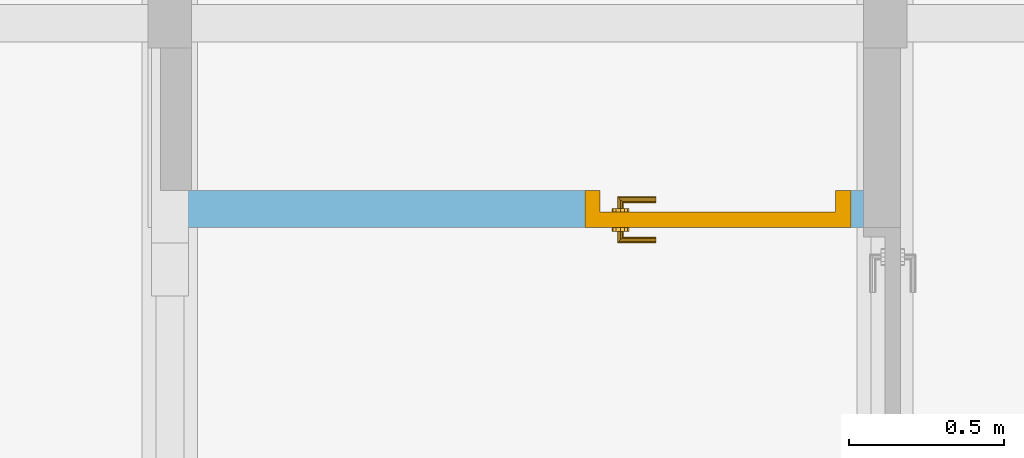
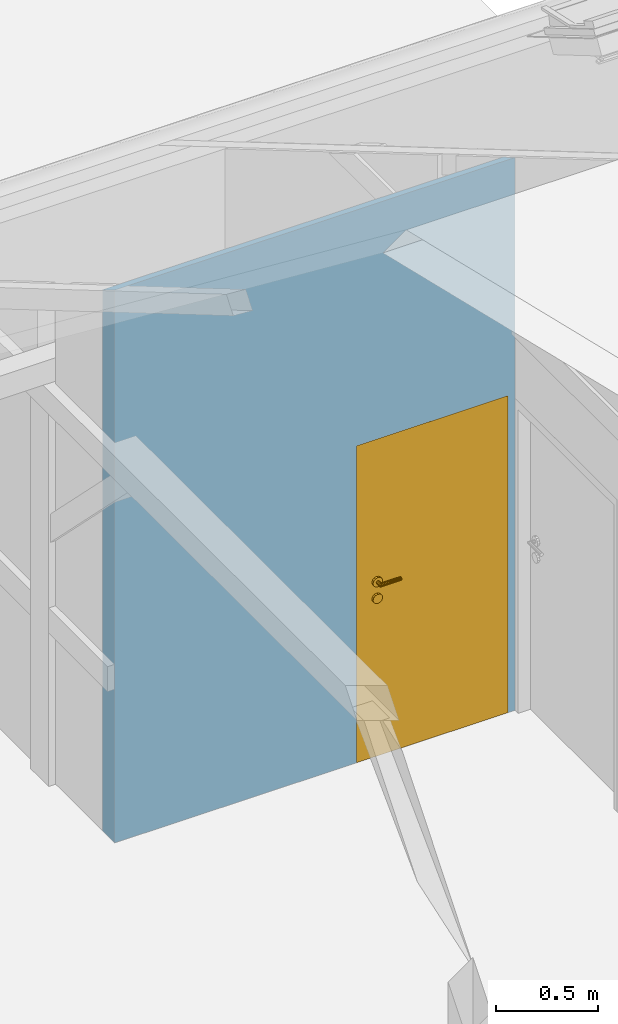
"""IFC4 building model written with IfcOpenShell, lengths in metres."""

from ifc_helpers import new_model, entity, si_unit, converted_unit, derived_unit, frame, frame_2d, origin, origin_with_axes, place, context, subcontext, project, spatial, polyline, rectangle, outline, extrude, clip, halfspace, faceted_brep, source, transform, mapped, material, layer, layer_set, layer_usage, type_object, element, fill, save


model = new_model("IFC4")

# Units and contexts
model_context = context("Model", 3, precision=1e-05, world=origin())
body_context = subcontext(model_context, "Body", "Model", "MODEL_VIEW")
ifc_project = project(units=[si_unit("LENGTHUNIT", "METRE"), si_unit("AREAUNIT", "SQUARE_METRE"), si_unit("VOLUMEUNIT", "CUBIC_METRE"), si_unit("MASSUNIT", "GRAM", prefix="KILO"), converted_unit("PLANEANGLEUNIT", "DEGREE", entity("IfcPlaneAngleMeasure", 0.0174532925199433), si_unit("PLANEANGLEUNIT", "RADIAN"), dimensions=[0, 0, 0, 0, 0, 0, 0]), derived_unit("THERMALTRANSMITTANCEUNIT", [(si_unit("POWERUNIT", "WATT"), 1), (si_unit("THERMODYNAMICTEMPERATUREUNIT", "KELVIN"), -1), (si_unit("LENGTHUNIT", "METRE"), -2)]), derived_unit("VOLUMETRICFLOWRATEUNIT", [(si_unit("LENGTHUNIT", "METRE"), 3), (converted_unit("TIMEUNIT", "hour", entity("IfcTimeMeasure", 3600.0), si_unit("TIMEUNIT", "SECOND"), dimensions=[0, 0, 1, 0, 0, 0, 0]), -1), (si_unit("LENGTHUNIT", "METRE"), -1)])], contexts=[model_context])

# Building, storeys
building_placement = place(None, origin())
building = spatial("IfcBuilding", under=ifc_project, at=building_placement, Name="Bestandsgebäude A - Sporthalle / Wohnhaus (TB 100-499)   ANPASSEN !!!", CompositionType="ELEMENT")
storey_1_placement = place(building_placement, frame((0.0, 0.0, 7.71)))
storey_1 = spatial("IfcBuildingStorey", under=building, at=storey_1_placement, Name="Geb. A Dachgeschoss (TB 450-499)", CompositionType="ELEMENT", Elevation=7.71)
storey_2_placement = place(storey_1_placement, frame((0.0, 0.0, 7.71)))
storey_2 = spatial("IfcBuildingStorey", under=storey_1, at=storey_2_placement, Name="Architektur (TB 450-459)", CompositionType="PARTIAL")

# Wall, opening, door
ifc_material = material(Name="masonry")
ifc_layer = layer(ifc_material, 0.12)
ifc_layer_set = layer_set([ifc_layer])
ifc_layer_usage = layer_usage(ifc_layer_set, "AXIS2", "POSITIVE", 0.0)
wall_placement = place(storey_2_placement, frame((-5.31999999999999, 6.03, -7.81), z_axis=(0.0, 0.0, 1.0), x_axis=(1.0, 1.60263383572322e-15, 0.0)))
wall = element("IfcWall", 1, at=wall_placement, inside=storey_2, material=ifc_layer_usage, Name="masonry load-bearing", PredefinedType="USERDEFINED", context=body_context, shape_type="Clipping", body=[
    clip(extrude(rectangle(XDim=2.27, YDim=0.12, at=frame_2d((1.135, 0.06), x_axis=(1.0, 0.0))), origin_with_axes(), (0.0, 0.0, 1.0), 3.31365393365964), halfspace(frame((1.135, 0.06, 3.27836763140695), z_axis=(-6.91139697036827e-16, -0.506936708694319, -0.861983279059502), x_axis=(1.0, 0.0, -8.01316917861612e-16)), True)),
])
opening_placement = place(wall_placement, frame((2.22999999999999, 0.12, 0.0), z_axis=(0.0, -1.0, 0.0), x_axis=(0.0, 0.0, 1.0)))
opening = element("IfcOpeningElement", 2, at=opening_placement, cuts=wall, Name="Door opening", PredefinedType="OPENING", context=body_context, shape_type="SweptSolid", body=[
    extrude(outline(polyline([(1.9, 0.86), (1.9, 0.0), (0.0, 0.0), (0.0, 0.86), (1.9, 0.86)])), origin_with_axes(), (0.0, 0.0, 1.0), 0.12),
])
door_type = type_object("IfcDoorType", Name="door", OperationType="SINGLE_SWING_LEFT", ParameterTakesPrecedence=False, PredefinedType="DOOR")
shared_shape = source(origin_with_axes(), body_context, "Body", "Brep", [
    faceted_brep([(0.0, 0.120000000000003, 1.9), (0.0, 0.120000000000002, 0.0), (0.05, 0.120000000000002, 0.0), (0.05, 0.120000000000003, 1.9), (0.0, 0.0, 0.0), (0.0, 0.0, 1.9), (0.0499999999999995, 0.0, 1.9), (0.0499999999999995, 0.0, 0.0)], [[[0, 1, 2, 3]], [[4, 5, 6, 7]], [[1, 0, 5, 4]], [[2, 1, 4, 7]], [[3, 2, 7, 6]], [[0, 3, 6, 5]]], orient=[[False], [False], [False], [False], [False], [False]]),
    faceted_brep([(0.81, 0.12, 1.9), (0.81, 0.12, 0.0), (0.860000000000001, 0.12, 0.0), (0.860000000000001, 0.12, 1.9), (0.81, 0.0, 0.0), (0.81, 0.0, 1.9), (0.86, 0.0, 1.9), (0.86, 0.0, 0.0)], [[[0, 1, 2, 3]], [[4, 5, 6, 7]], [[1, 0, 5, 4]], [[2, 1, 4, 7]], [[3, 2, 7, 6]], [[0, 3, 6, 5]]], orient=[[False], [False], [False], [False], [False], [False]]),
    faceted_brep([(0.05, 0.120000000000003, 1.9), (0.05, 0.120000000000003, 1.85), (0.81, 0.12, 1.85), (0.81, 0.12, 1.9), (0.0499999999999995, 0.0, 1.85), (0.0499999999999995, 0.0, 1.9), (0.81, 0.0, 1.9), (0.81, 0.0, 1.85)], [[[0, 1, 2, 3]], [[4, 5, 6, 7]], [[1, 0, 5, 4]], [[2, 1, 4, 7]], [[3, 2, 7, 6]], [[0, 3, 6, 5]]], orient=[[False], [False], [False], [False], [False], [False]]),
    faceted_brep([(0.05, 0.120000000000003, 1.85), (0.05, 0.120000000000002, 0.0), (0.81, 0.12, 0.0), (0.81, 0.12, 1.85), (0.05, 0.0700000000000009, 0.0), (0.05, 0.0700000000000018, 1.85), (0.81, 0.0699999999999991, 1.85), (0.81, 0.0699999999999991, 0.0)], [[[0, 1, 2, 3]], [[4, 5, 6, 7]], [[1, 0, 5, 4]], [[2, 1, 4, 7]], [[3, 2, 7, 6]], [[0, 3, 6, 5]]], orient=[[False], [False], [False], [False], [False], [False]]),
    faceted_brep([(0.768815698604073, 0.0699999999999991, 0.93625), (0.772500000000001, 0.0699999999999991, 0.95), (0.768815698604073, 0.0699999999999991, 0.96375), (0.75875, 0.0699999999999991, 0.973815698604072), (0.745, 0.0699999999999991, 0.9775), (0.731250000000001, 0.0699999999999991, 0.973815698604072), (0.721184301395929, 0.0699999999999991, 0.96375), (0.7175, 0.0699999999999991, 0.95), (0.721184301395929, 0.0699999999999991, 0.93625), (0.731250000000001, 0.0699999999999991, 0.926184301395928), (0.745, 0.0699999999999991, 0.9225), (0.75875, 0.0699999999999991, 0.926184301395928), (0.772500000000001, 0.0574999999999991, 0.95), (0.768815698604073, 0.0574999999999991, 0.93625), (0.75875, 0.0574999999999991, 0.926184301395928), (0.745, 0.0574999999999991, 0.9225), (0.731250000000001, 0.0574999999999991, 0.926184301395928), (0.721184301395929, 0.0574999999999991, 0.93625), (0.7175, 0.0574999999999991, 0.95), (0.721184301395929, 0.0574999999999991, 0.96375), (0.731250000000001, 0.0574999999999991, 0.973815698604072), (0.745, 0.0574999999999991, 0.9775), (0.75875, 0.0574999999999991, 0.973815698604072), (0.768815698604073, 0.0574999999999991, 0.96375)], [[[0, 1, 2, 3, 4, 5, 6, 7, 8, 9, 10, 11]], [[12, 13, 14, 15, 16, 17, 18, 19, 20, 21, 22, 23]], [[1, 0, 13, 12]], [[2, 1, 12, 23]], [[3, 2, 23, 22]], [[4, 3, 22, 21]], [[5, 4, 21, 20]], [[6, 5, 20, 19]], [[7, 6, 19, 18]], [[8, 7, 18, 17]], [[9, 8, 17, 16]], [[10, 9, 16, 15]], [[11, 10, 15, 14]], [[0, 11, 14, 13]]], orient=[[False], [False], [False], [False], [False], [False], [False], [False], [False], [False], [False], [False], [False], [False]]),
    faceted_brep([(0.768815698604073, 0.0699999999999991, 1.03625), (0.772500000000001, 0.0699999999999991, 1.05), (0.768815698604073, 0.0699999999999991, 1.06375), (0.75875, 0.0699999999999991, 1.07381569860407), (0.745, 0.0699999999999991, 1.0775), (0.731250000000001, 0.0699999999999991, 1.07381569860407), (0.721184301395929, 0.0699999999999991, 1.06375), (0.7175, 0.0699999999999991, 1.05), (0.721184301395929, 0.0699999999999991, 1.03625), (0.731250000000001, 0.0699999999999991, 1.02618430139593), (0.745, 0.0699999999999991, 1.0225), (0.75875, 0.0699999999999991, 1.02618430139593), (0.772500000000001, 0.0574999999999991, 1.05), (0.768815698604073, 0.0574999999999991, 1.03625), (0.75875, 0.0574999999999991, 1.02618430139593), (0.745, 0.0574999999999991, 1.0225), (0.731250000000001, 0.0574999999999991, 1.02618430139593), (0.721184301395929, 0.0574999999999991, 1.03625), (0.7175, 0.0574999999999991, 1.05), (0.721184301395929, 0.0574999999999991, 1.06375), (0.731250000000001, 0.0574999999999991, 1.07381569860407), (0.745, 0.0574999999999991, 1.0775), (0.75875, 0.0574999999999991, 1.07381569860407), (0.768815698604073, 0.0574999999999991, 1.06375)], [[[0, 1, 2, 3, 4, 5, 6, 7, 8, 9, 10, 11]], [[12, 13, 14, 15, 16, 17, 18, 19, 20, 21, 22, 23]], [[1, 0, 13, 12]], [[2, 1, 12, 23]], [[3, 2, 23, 22]], [[4, 3, 22, 21]], [[5, 4, 21, 20]], [[6, 5, 20, 19]], [[7, 6, 19, 18]], [[8, 7, 18, 17]], [[9, 8, 17, 16]], [[10, 9, 16, 15]], [[11, 10, 15, 14]], [[0, 11, 14, 13]]], orient=[[False], [False], [False], [False], [False], [False], [False], [False], [False], [False], [False], [False], [False], [False]]),
    faceted_brep([(0.745, 0.0699999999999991, 1.06), (0.74, 0.0699999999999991, 1.05866025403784), (0.736339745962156, 0.0699999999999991, 1.055), (0.735, 0.0699999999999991, 1.05), (0.736339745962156, 0.0699999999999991, 1.045), (0.74, 0.0699999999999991, 1.04133974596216), (0.745, 0.0699999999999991, 1.04), (0.75, 0.0699999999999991, 1.04133974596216), (0.753660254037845, 0.0699999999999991, 1.045), (0.755, 0.0699999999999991, 1.05), (0.753660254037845, 0.0699999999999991, 1.055), (0.75, 0.0699999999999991, 1.05866025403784), (0.75, 0.0249999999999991, 1.05866025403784), (0.745, 0.0299999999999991, 1.06), (0.753660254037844, 0.0213397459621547, 1.055), (0.755, 0.0199999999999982, 1.05), (0.753660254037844, 0.0213397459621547, 1.045), (0.75, 0.0249999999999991, 1.04133974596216), (0.745, 0.0299999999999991, 1.04), (0.74, 0.0349999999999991, 1.04133974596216), (0.736339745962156, 0.0386602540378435, 1.045), (0.735, 0.0399999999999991, 1.05), (0.736339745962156, 0.0386602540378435, 1.055), (0.74, 0.0349999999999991, 1.05866025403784), (0.63, 0.0299999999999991, 1.06), (0.63, 0.0249999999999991, 1.05866025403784), (0.63, 0.0213397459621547, 1.055), (0.63, 0.0199999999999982, 1.05), (0.63, 0.0213397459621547, 1.045), (0.63, 0.0249999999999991, 1.04133974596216), (0.63, 0.0299999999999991, 1.04), (0.63, 0.0349999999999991, 1.04133974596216), (0.63, 0.0386602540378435, 1.045), (0.63, 0.0399999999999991, 1.05), (0.63, 0.0386602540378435, 1.055), (0.63, 0.0349999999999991, 1.05866025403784)], [[[0, 1, 2, 3, 4, 5, 6, 7, 8, 9, 10, 11]], [[0, 11, 12, 13]], [[11, 10, 14, 12]], [[10, 9, 15, 14]], [[9, 8, 16, 15]], [[8, 7, 17, 16]], [[7, 6, 18, 17]], [[6, 5, 19, 18]], [[5, 4, 20, 19]], [[4, 3, 21, 20]], [[3, 2, 22, 21]], [[2, 1, 23, 22]], [[1, 0, 13, 23]], [[24, 25, 26, 27, 28, 29, 30, 31, 32, 33, 34, 35]], [[13, 12, 25, 24]], [[12, 14, 26, 25]], [[14, 15, 27, 26]], [[15, 16, 28, 27]], [[16, 17, 29, 28]], [[17, 18, 30, 29]], [[18, 19, 31, 30]], [[19, 20, 32, 31]], [[20, 21, 33, 32]], [[21, 22, 34, 33]], [[22, 23, 35, 34]], [[23, 13, 24, 35]]], orient=[[False], [False], [False], [False], [False], [False], [False], [False], [False], [False], [False], [False], [False], [False], [False], [False], [False], [False], [False], [False], [False], [False], [False], [False], [False], [False]]),
    faceted_brep([(0.768815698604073, 0.12, 0.93625), (0.75875, 0.12, 0.926184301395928), (0.745, 0.12, 0.9225), (0.731250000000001, 0.12, 0.926184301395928), (0.721184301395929, 0.12, 0.93625), (0.7175, 0.12, 0.95), (0.721184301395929, 0.12, 0.96375), (0.731250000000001, 0.12, 0.973815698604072), (0.745, 0.12, 0.9775), (0.75875, 0.12, 0.973815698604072), (0.768815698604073, 0.12, 0.96375), (0.772500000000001, 0.12, 0.95), (0.772500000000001, 0.132500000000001, 0.95), (0.768815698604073, 0.132500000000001, 0.96375), (0.75875, 0.132500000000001, 0.973815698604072), (0.745, 0.132500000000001, 0.9775), (0.731250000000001, 0.132500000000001, 0.973815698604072), (0.721184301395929, 0.132500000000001, 0.96375), (0.7175, 0.132500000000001, 0.95), (0.721184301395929, 0.132500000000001, 0.93625), (0.731250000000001, 0.132500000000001, 0.926184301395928), (0.745, 0.132500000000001, 0.9225), (0.75875, 0.132500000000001, 0.926184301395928), (0.768815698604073, 0.132500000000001, 0.93625)], [[[0, 1, 2, 3, 4, 5, 6, 7, 8, 9, 10, 11]], [[12, 13, 14, 15, 16, 17, 18, 19, 20, 21, 22, 23]], [[11, 12, 23, 0]], [[10, 13, 12, 11]], [[9, 14, 13, 10]], [[8, 15, 14, 9]], [[7, 16, 15, 8]], [[6, 17, 16, 7]], [[5, 18, 17, 6]], [[4, 19, 18, 5]], [[3, 20, 19, 4]], [[2, 21, 20, 3]], [[1, 22, 21, 2]], [[0, 23, 22, 1]]], orient=[[False], [False], [False], [False], [False], [False], [False], [False], [False], [False], [False], [False], [False], [False]]),
    faceted_brep([(0.768815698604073, 0.12, 1.03625), (0.75875, 0.12, 1.02618430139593), (0.745, 0.12, 1.0225), (0.731250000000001, 0.12, 1.02618430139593), (0.721184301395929, 0.12, 1.03625), (0.7175, 0.12, 1.05), (0.721184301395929, 0.12, 1.06375), (0.731250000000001, 0.12, 1.07381569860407), (0.745, 0.12, 1.0775), (0.75875, 0.12, 1.07381569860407), (0.768815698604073, 0.12, 1.06375), (0.772500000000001, 0.12, 1.05), (0.772500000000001, 0.132500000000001, 1.05), (0.768815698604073, 0.132500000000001, 1.06375), (0.75875, 0.132500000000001, 1.07381569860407), (0.745, 0.132500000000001, 1.0775), (0.731250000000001, 0.132500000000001, 1.07381569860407), (0.721184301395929, 0.132500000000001, 1.06375), (0.7175, 0.132500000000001, 1.05), (0.721184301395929, 0.132500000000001, 1.03625), (0.731250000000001, 0.132500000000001, 1.02618430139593), (0.745, 0.132500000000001, 1.0225), (0.75875, 0.132500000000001, 1.02618430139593), (0.768815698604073, 0.132500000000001, 1.03625)], [[[0, 1, 2, 3, 4, 5, 6, 7, 8, 9, 10, 11]], [[12, 13, 14, 15, 16, 17, 18, 19, 20, 21, 22, 23]], [[11, 12, 23, 0]], [[10, 13, 12, 11]], [[9, 14, 13, 10]], [[8, 15, 14, 9]], [[7, 16, 15, 8]], [[6, 17, 16, 7]], [[5, 18, 17, 6]], [[4, 19, 18, 5]], [[3, 20, 19, 4]], [[2, 21, 20, 3]], [[1, 22, 21, 2]], [[0, 23, 22, 1]]], orient=[[False], [False], [False], [False], [False], [False], [False], [False], [False], [False], [False], [False], [False], [False]]),
    faceted_brep([(0.745, 0.12, 1.06), (0.75, 0.12, 1.05866025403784), (0.753660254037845, 0.12, 1.055), (0.755, 0.12, 1.05), (0.753660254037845, 0.12, 1.045), (0.75, 0.12, 1.04133974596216), (0.745, 0.12, 1.04), (0.74, 0.12, 1.04133974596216), (0.736339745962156, 0.12, 1.045), (0.735, 0.12, 1.05), (0.736339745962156, 0.12, 1.055), (0.74, 0.12, 1.05866025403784), (0.745, 0.160000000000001, 1.06), (0.75, 0.165000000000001, 1.05866025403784), (0.753660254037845, 0.168660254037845, 1.055), (0.755, 0.170000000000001, 1.05), (0.753660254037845, 0.168660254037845, 1.045), (0.75, 0.165000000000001, 1.04133974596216), (0.745, 0.160000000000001, 1.04), (0.74, 0.155000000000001, 1.04133974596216), (0.736339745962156, 0.151339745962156, 1.045), (0.735, 0.150000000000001, 1.05), (0.736339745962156, 0.151339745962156, 1.055), (0.74, 0.155000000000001, 1.05866025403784), (0.63, 0.160000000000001, 1.06), (0.63, 0.155000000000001, 1.05866025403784), (0.63, 0.151339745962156, 1.055), (0.63, 0.150000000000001, 1.05), (0.63, 0.151339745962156, 1.045), (0.63, 0.155000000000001, 1.04133974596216), (0.63, 0.160000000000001, 1.04), (0.63, 0.165000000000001, 1.04133974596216), (0.63, 0.168660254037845, 1.045), (0.63, 0.170000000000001, 1.05), (0.63, 0.168660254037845, 1.055), (0.63, 0.165000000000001, 1.05866025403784)], [[[0, 1, 2, 3, 4, 5, 6, 7, 8, 9, 10, 11]], [[0, 12, 13, 1]], [[1, 13, 14, 2]], [[2, 14, 15, 3]], [[3, 15, 16, 4]], [[4, 16, 17, 5]], [[5, 17, 18, 6]], [[6, 18, 19, 7]], [[7, 19, 20, 8]], [[8, 20, 21, 9]], [[9, 21, 22, 10]], [[10, 22, 23, 11]], [[11, 23, 12, 0]], [[24, 25, 26, 27, 28, 29, 30, 31, 32, 33, 34, 35]], [[12, 24, 35, 13]], [[13, 35, 34, 14]], [[14, 34, 33, 15]], [[15, 33, 32, 16]], [[16, 32, 31, 17]], [[17, 31, 30, 18]], [[18, 30, 29, 19]], [[19, 29, 28, 20]], [[20, 28, 27, 21]], [[21, 27, 26, 22]], [[22, 26, 25, 23]], [[23, 25, 24, 12]]], orient=[[False], [False], [False], [False], [False], [False], [False], [False], [False], [False], [False], [False], [False], [False], [False], [False], [False], [False], [False], [False], [False], [False], [False], [False], [False], [False]]),
])
door_placement = place(opening_placement, frame((0.0, 0.0, 0.0), z_axis=(1.0, 0.0, 0.0), x_axis=(0.0, 1.0, 5.12470121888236e-16)))
door = element("IfcDoor", 3, at=door_placement, inside=storey_2, type_object=door_type, Name="door", OverallHeight=1.9, OverallWidth=0.86, PredefinedType="DOOR", context=body_context, shape_type="MappedRepresentation", body=[
    mapped(shared_shape, transform((0.0, 0.0, 0.0), x_axis=(1.0, 0.0, 0.0), y_axis=(0.0, 1.0, 0.0), z_axis=(0.0, 0.0, 1.0), scale=1.0)),
])
fill(opening, door)

save(model, "model.ifc")
